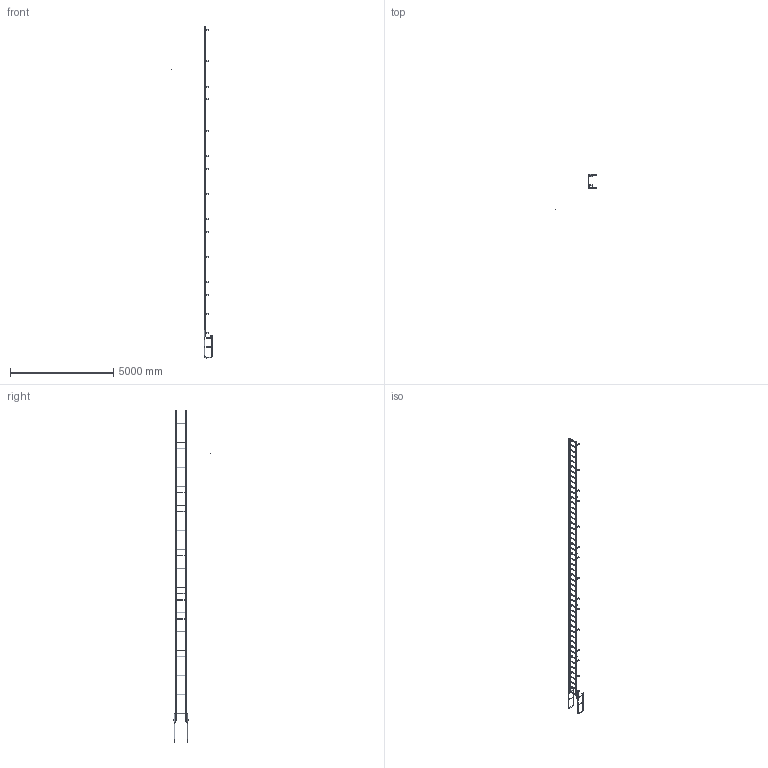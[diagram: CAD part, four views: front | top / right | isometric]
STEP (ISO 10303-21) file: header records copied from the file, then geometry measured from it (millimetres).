
FILE_DESCRIPTION(/* description */ (''),/* implementation_level */ '2;1');
FILE_NAME(/* name */ 'P:\MIKEL & KAREN\3570396 F50W SIMPLIFIED PART.stp',/* time_stamp */ '2018-07-02T16:24:20-04:00',/* author */ ('stephanie'),/* organization */ (''),/* preprocessor_version */ 'ST-DEVELOPER v16.1',/* originating_system */ 'Autodesk Inventor 2016',/* authorisation */ '');
FILE_SCHEMA (('AUTOMOTIVE_DESIGN { 1 0 10303 214 3 1 1 }'));
Length unit declared in the file: centimetre
Products named in the file (1): 3570396 F50W SIMPLIFIED PART
Bounding box: 2020.75 x 1743.22 x 16049.62 mm (x, y, z)
Volume: 27528365.4 mm3; surface area: 9042561.1 mm2
Topology: 59 solids, 59 shells, 959 faces, 2579 edges, 1702 vertices
Faces by surface type: plane 558, cylinder 393, torus 8
Full cylindrical faces by diameter (mm): 0.254 x1, 10.319 x4, 14.287 x38, 19.05 x50, 22.098 x10, 22.225 x100, 25.4 x10
Entity records: 29714 total; most frequent: CARTESIAN_POINT 5136, DIRECTION 4968, ORIENTED_EDGE 4440, EDGE_CURVE 2216, AXIS2_PLACEMENT_3D 1808, VERTEX_POINT 1560, EDGE_LOOP 1470, LINE 1352
